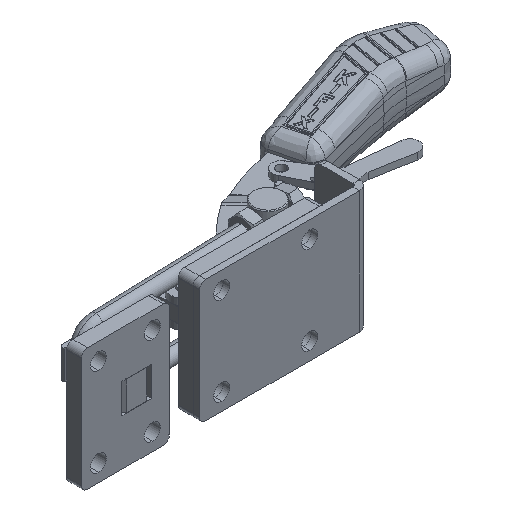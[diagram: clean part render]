
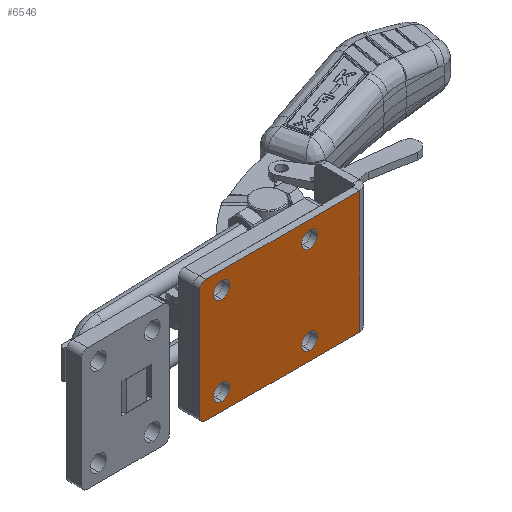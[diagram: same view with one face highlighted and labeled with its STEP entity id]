
A CAD part, isometric view. The second image highlights one B-rep face of the part: STEP entity #6546.
In plain terms, the highlighted planar face has unit normal (0, -1, 0).
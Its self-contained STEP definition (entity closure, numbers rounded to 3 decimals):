
#246 = AXIS2_PLACEMENT_3D ( 'NONE', #2887, #17929, #5055 ) ;
#288 = DIRECTION ( 'NONE',  ( 0., 0., 1. ) ) ;
#401 = DIRECTION ( 'NONE',  ( 0., 0., 1. ) ) ;
#441 = DIRECTION ( 'NONE',  ( 0., 0., 1. ) ) ;
#556 = LINE ( 'NONE', #1981, #17025 ) ;
#559 = CIRCLE ( 'NONE', #10189, 5.25 ) ;
#1099 = CARTESIAN_POINT ( 'NONE',  ( -45.65, 0., -33.85 ) ) ;
#1584 = ORIENTED_EDGE ( 'NONE', *, *, #2058, .T. ) ;
#1655 = EDGE_CURVE ( 'NONE', #23060, #26439, #9951, .T. ) ;
#1873 = EDGE_CURVE ( 'NONE', #26439, #23060, #12278, .T. ) ;
#1940 = VERTEX_POINT ( 'NONE', #21882 ) ;
#1981 = CARTESIAN_POINT ( 'NONE',  ( 43.75, 0., -39.75 ) ) ;
#2058 = EDGE_CURVE ( 'NONE', #7476, #10764, #5878, .T. ) ;
#2092 = DIRECTION ( 'NONE',  ( 0., 0., -1. ) ) ;
#2626 = FACE_BOUND ( 'NONE', #2639, .T. ) ;
#2639 = EDGE_LOOP ( 'NONE', ( #21758, #10164 ) ) ;
#2887 = CARTESIAN_POINT ( 'NONE',  ( 11.55, 0., -28.6 ) ) ;
#3237 = DIRECTION ( 'NONE',  ( 1., 0., 0. ) ) ;
#3524 = EDGE_CURVE ( 'NONE', #1940, #12936, #8837, .T. ) ;
#4013 = ORIENTED_EDGE ( 'NONE', *, *, #25789, .T. ) ;
#4727 = EDGE_CURVE ( 'NONE', #12767, #27423, #17892, .T. ) ;
#5055 = DIRECTION ( 'NONE',  ( 0., 0., 1. ) ) ;
#5400 = DIRECTION ( 'NONE',  ( 0., -1., 0. ) ) ;
#5720 = CARTESIAN_POINT ( 'NONE',  ( 11.55, 0., 33.85 ) ) ;
#5878 = CIRCLE ( 'NONE', #13870, 5.25 ) ;
#6007 = CARTESIAN_POINT ( 'NONE',  ( -56., 0., -35.75 ) ) ;
#6017 = ORIENTED_EDGE ( 'NONE', *, *, #1873, .T. ) ;
#6228 = EDGE_CURVE ( 'NONE', #10764, #7476, #17711, .T. ) ;
#6287 = VERTEX_POINT ( 'NONE', #6977 ) ;
#6546 = ADVANCED_FACE ( 'NONE', ( #24036, #2626, #18409, #12703, #6982 ), #10641, .T. ) ;
#6811 = ORIENTED_EDGE ( 'NONE', *, *, #12814, .T. ) ;
#6977 = CARTESIAN_POINT ( 'NONE',  ( 11.55, 0., -23.35 ) ) ;
#6982 = FACE_OUTER_BOUND ( 'NONE', #22981, .T. ) ;
#7146 = CARTESIAN_POINT ( 'NONE',  ( -56., 0., 39.75 ) ) ;
#7306 = CIRCLE ( 'NONE', #25998, 5.25 ) ;
#7476 = VERTEX_POINT ( 'NONE', #8311 ) ;
#8178 = DIRECTION ( 'NONE',  ( 0., 0., -1. ) ) ;
#8311 = CARTESIAN_POINT ( 'NONE',  ( -45.65, 0., 33.85 ) ) ;
#8453 = CARTESIAN_POINT ( 'NONE',  ( -45.65, 0., 23.35 ) ) ;
#8815 = DIRECTION ( 'NONE',  ( 0., 1., 0. ) ) ;
#8837 = LINE ( 'NONE', #21346, #9543 ) ;
#9269 = EDGE_CURVE ( 'NONE', #25895, #12936, #20289, .T. ) ;
#9543 = VECTOR ( 'NONE', #27725, 1000. ) ;
#9951 = CIRCLE ( 'NONE', #26362, 5.25 ) ;
#10044 = CARTESIAN_POINT ( 'NONE',  ( -60., 0., 35.75 ) ) ;
#10164 = ORIENTED_EDGE ( 'NONE', *, *, #20694, .T. ) ;
#10187 = DIRECTION ( 'NONE',  ( 0., 1., 0. ) ) ;
#10189 = AXIS2_PLACEMENT_3D ( 'NONE', #25927, #13143, #288 ) ;
#10432 = AXIS2_PLACEMENT_3D ( 'NONE', #24731, #11958, #26903 ) ;
#10641 = PLANE ( 'NONE',  #25879 ) ;
#10764 = VERTEX_POINT ( 'NONE', #8453 ) ;
#11053 = EDGE_LOOP ( 'NONE', ( #4013, #6811 ) ) ;
#11739 = CARTESIAN_POINT ( 'NONE',  ( -45.65, 0., 28.6 ) ) ;
#11936 = AXIS2_PLACEMENT_3D ( 'NONE', #18269, #5400, #20387 ) ;
#11958 = DIRECTION ( 'NONE',  ( 0., 1., 0. ) ) ;
#12142 = AXIS2_PLACEMENT_3D ( 'NONE', #6007, #20982, #8178 ) ;
#12278 = CIRCLE ( 'NONE', #22955, 5.25 ) ;
#12499 = CARTESIAN_POINT ( 'NONE',  ( -56., 0., -39.75 ) ) ;
#12590 = ORIENTED_EDGE ( 'NONE', *, *, #1655, .T. ) ;
#12703 = FACE_BOUND ( 'NONE', #21895, .T. ) ;
#12767 = VERTEX_POINT ( 'NONE', #7146 ) ;
#12814 = EDGE_CURVE ( 'NONE', #15262, #15593, #15144, .T. ) ;
#12936 = VERTEX_POINT ( 'NONE', #12499 ) ;
#13089 = ORIENTED_EDGE ( 'NONE', *, *, #20453, .T. ) ;
#13143 = DIRECTION ( 'NONE',  ( 0., 1., 0. ) ) ;
#13177 = EDGE_LOOP ( 'NONE', ( #6017, #12590 ) ) ;
#13268 = DIRECTION ( 'NONE',  ( 0., 1., 0. ) ) ;
#13307 = DIRECTION ( 'NONE',  ( 0., 1., 0. ) ) ;
#13571 = AXIS2_PLACEMENT_3D ( 'NONE', #26049, #13268, #401 ) ;
#13714 = VERTEX_POINT ( 'NONE', #24094 ) ;
#13814 = EDGE_CURVE ( 'NONE', #12767, #13714, #19766, .T. ) ;
#13870 = AXIS2_PLACEMENT_3D ( 'NONE', #11739, #26685, #13896 ) ;
#13896 = DIRECTION ( 'NONE',  ( 0., 0., 1. ) ) ;
#13962 = CARTESIAN_POINT ( 'NONE',  ( 60., 0., 39.75 ) ) ;
#14128 = VECTOR ( 'NONE', #3237, 1000. ) ;
#14287 = CARTESIAN_POINT ( 'NONE',  ( -60., 0., -39.75 ) ) ;
#14721 = ORIENTED_EDGE ( 'NONE', *, *, #24427, .F. ) ;
#14947 = DIRECTION ( 'NONE',  ( 0., -1., 0. ) ) ;
#15144 = CIRCLE ( 'NONE', #10432, 5.25 ) ;
#15262 = VERTEX_POINT ( 'NONE', #23586 ) ;
#15593 = VERTEX_POINT ( 'NONE', #5720 ) ;
#16993 = DIRECTION ( 'NONE',  ( 0., 0., 1. ) ) ;
#17025 = VECTOR ( 'NONE', #16993, 1000. ) ;
#17673 = CARTESIAN_POINT ( 'NONE',  ( 11.55, 0., -33.85 ) ) ;
#17711 = CIRCLE ( 'NONE', #13571, 5.25 ) ;
#17892 = CIRCLE ( 'NONE', #11936, 4. ) ;
#17929 = DIRECTION ( 'NONE',  ( 0., 1., 0. ) ) ;
#18029 = VERTEX_POINT ( 'NONE', #17673 ) ;
#18269 = CARTESIAN_POINT ( 'NONE',  ( -56., 0., 35.75 ) ) ;
#18409 = FACE_BOUND ( 'NONE', #11053, .T. ) ;
#18430 = ORIENTED_EDGE ( 'NONE', *, *, #4727, .T. ) ;
#18593 = DIRECTION ( 'NONE',  ( 0., 0., 1. ) ) ;
#19755 = ORIENTED_EDGE ( 'NONE', *, *, #9269, .T. ) ;
#19766 = LINE ( 'NONE', #13962, #14128 ) ;
#20289 = CIRCLE ( 'NONE', #12142, 4. ) ;
#20387 = DIRECTION ( 'NONE',  ( 0., 0., -1. ) ) ;
#20453 = EDGE_CURVE ( 'NONE', #1940, #13714, #556, .T. ) ;
#20694 = EDGE_CURVE ( 'NONE', #18029, #6287, #25666, .T. ) ;
#20695 = ORIENTED_EDGE ( 'NONE', *, *, #13814, .F. ) ;
#20903 = VECTOR ( 'NONE', #18593, 1000. ) ;
#20969 = CARTESIAN_POINT ( 'NONE',  ( -45.65, 0., -23.35 ) ) ;
#20982 = DIRECTION ( 'NONE',  ( 0., -1., 0. ) ) ;
#21180 = CARTESIAN_POINT ( 'NONE',  ( -60., 0., -35.75 ) ) ;
#21346 = CARTESIAN_POINT ( 'NONE',  ( 60., 0., -39.75 ) ) ;
#21549 = LINE ( 'NONE', #14287, #20903 ) ;
#21604 = CARTESIAN_POINT ( 'NONE',  ( -45.65, 0., -28.6 ) ) ;
#21643 = EDGE_CURVE ( 'NONE', #6287, #18029, #559, .T. ) ;
#21758 = ORIENTED_EDGE ( 'NONE', *, *, #21643, .T. ) ;
#21882 = CARTESIAN_POINT ( 'NONE',  ( 43.75, 0., -39.75 ) ) ;
#21895 = EDGE_LOOP ( 'NONE', ( #1584, #22974 ) ) ;
#21925 = ORIENTED_EDGE ( 'NONE', *, *, #3524, .F. ) ;
#22955 = AXIS2_PLACEMENT_3D ( 'NONE', #21604, #8815, #23757 ) ;
#22959 = CARTESIAN_POINT ( 'NONE',  ( 11.55, 0., 28.6 ) ) ;
#22974 = ORIENTED_EDGE ( 'NONE', *, *, #6228, .T. ) ;
#22981 = EDGE_LOOP ( 'NONE', ( #14721, #19755, #21925, #13089, #20695, #18430 ) ) ;
#23060 = VERTEX_POINT ( 'NONE', #1099 ) ;
#23586 = CARTESIAN_POINT ( 'NONE',  ( 11.55, 0., 23.35 ) ) ;
#23757 = DIRECTION ( 'NONE',  ( 0., 0., 1. ) ) ;
#24036 = FACE_BOUND ( 'NONE', #13177, .T. ) ;
#24094 = CARTESIAN_POINT ( 'NONE',  ( 43.75, 0., 39.75 ) ) ;
#24427 = EDGE_CURVE ( 'NONE', #25895, #27423, #21549, .T. ) ;
#24731 = CARTESIAN_POINT ( 'NONE',  ( 11.55, 0., 28.6 ) ) ;
#25122 = DIRECTION ( 'NONE',  ( 0., 0., 1. ) ) ;
#25559 = CARTESIAN_POINT ( 'NONE',  ( -60., 0., 39.75 ) ) ;
#25666 = CIRCLE ( 'NONE', #246, 5.25 ) ;
#25789 = EDGE_CURVE ( 'NONE', #15593, #15262, #7306, .T. ) ;
#25879 = AXIS2_PLACEMENT_3D ( 'NONE', #25559, #14947, #2092 ) ;
#25895 = VERTEX_POINT ( 'NONE', #21180 ) ;
#25927 = CARTESIAN_POINT ( 'NONE',  ( 11.55, 0., -28.6 ) ) ;
#25998 = AXIS2_PLACEMENT_3D ( 'NONE', #22959, #10187, #25122 ) ;
#26049 = CARTESIAN_POINT ( 'NONE',  ( -45.65, 0., 28.6 ) ) ;
#26089 = CARTESIAN_POINT ( 'NONE',  ( -45.65, 0., -28.6 ) ) ;
#26362 = AXIS2_PLACEMENT_3D ( 'NONE', #26089, #13307, #441 ) ;
#26439 = VERTEX_POINT ( 'NONE', #20969 ) ;
#26685 = DIRECTION ( 'NONE',  ( 0., 1., 0. ) ) ;
#26903 = DIRECTION ( 'NONE',  ( 0., 0., 1. ) ) ;
#27423 = VERTEX_POINT ( 'NONE', #10044 ) ;
#27725 = DIRECTION ( 'NONE',  ( -1., 0., 0. ) ) ;
